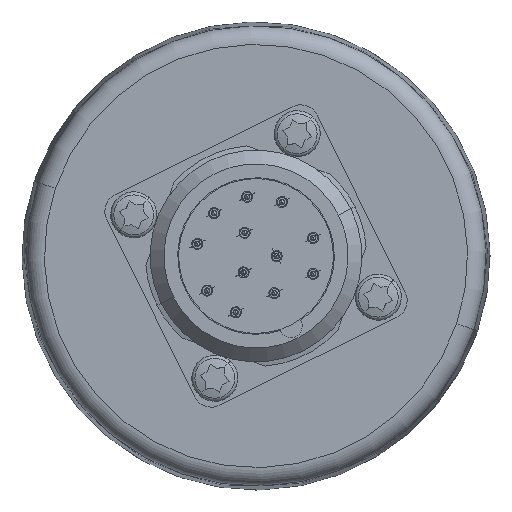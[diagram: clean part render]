
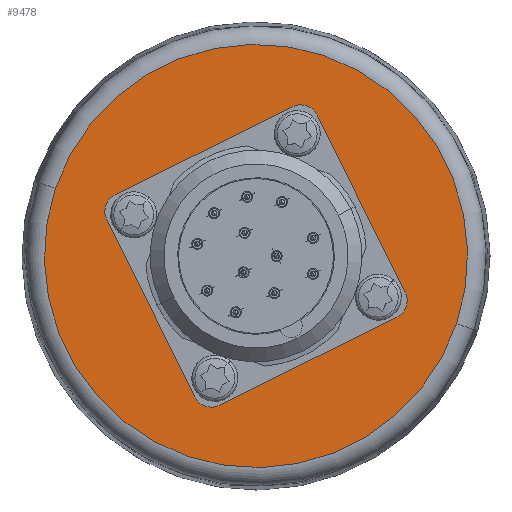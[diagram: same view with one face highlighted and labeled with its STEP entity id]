
A CAD part, left-side view. The second image highlights one B-rep face of the part: STEP entity #9478.
In plain terms, the highlighted planar face has unit normal (-1, 0, 0).
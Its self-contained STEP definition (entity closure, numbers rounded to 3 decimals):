
#177 = DIRECTION ( 'NONE',  ( 0., 0.948, 0.319 ) ) ;
#178 = DIRECTION ( 'NONE',  ( -1., 0., 0. ) ) ;
#179 = CARTESIAN_POINT ( 'NONE',  ( -21., 0., 0. ) ) ;
#180 = AXIS2_PLACEMENT_3D ( 'NONE', #179, #178, #177 ) ;
#181 = CIRCLE ( 'NONE', #180, 22.972 ) ;
#182 = CARTESIAN_POINT ( 'NONE',  ( -21., -21.77, -7.332 ) ) ;
#302 = CARTESIAN_POINT ( 'NONE',  ( -21., 21.77, 7.332 ) ) ;
#6747 = EDGE_CURVE ( 'NONE', #6748, #6754, #33563, .T. ) ;
#6748 = VERTEX_POINT ( 'NONE', #33558 ) ;
#6754 = VERTEX_POINT ( 'NONE', #33504 ) ;
#6761 = EDGE_CURVE ( 'NONE', #6762, #6764, #33707, .T. ) ;
#6762 = VERTEX_POINT ( 'NONE', #33702 ) ;
#6764 = VERTEX_POINT ( 'NONE', #33701 ) ;
#6772 = EDGE_CURVE ( 'NONE', #6781, #6775, #33688, .T. ) ;
#6775 = VERTEX_POINT ( 'NONE', #33611 ) ;
#6781 = VERTEX_POINT ( 'NONE', #33881 ) ;
#6790 = VERTEX_POINT ( 'NONE', #33833 ) ;
#6791 = EDGE_CURVE ( 'NONE', #6794, #6790, #33832, .T. ) ;
#6794 = VERTEX_POINT ( 'NONE', #33827 ) ;
#7105 = VERTEX_POINT ( 'NONE', #302 ) ;
#7112 = VERTEX_POINT ( 'NONE', #182 ) ;
#7114 = EDGE_CURVE ( 'NONE', #7112, #7105, #181, .T. ) ;
#9457 = ORIENTED_EDGE ( 'NONE', *, *, #15665, .F. ) ;
#9464 = EDGE_LOOP ( 'NONE', ( #9479, #9494 ) ) ;
#9469 = ORIENTED_EDGE ( 'NONE', *, *, #6791, .T. ) ;
#9470 = ORIENTED_EDGE ( 'NONE', *, *, #9471, .T. ) ;
#9471 = EDGE_CURVE ( 'NONE', #6790, #6794, #12883, .T. ) ;
#9472 = EDGE_LOOP ( 'NONE', ( #9573, #9617 ) ) ;
#9476 = ORIENTED_EDGE ( 'NONE', *, *, #6761, .T. ) ;
#9477 = ORIENTED_EDGE ( 'NONE', *, *, #9485, .T. ) ;
#9478 = ADVANCED_FACE ( 'NONE', ( #12867, #12866, #12865, #12864, #12863, #12862 ), #12990, .F. ) ;
#9479 = ORIENTED_EDGE ( 'NONE', *, *, #6747, .T. ) ;
#9482 = EDGE_LOOP ( 'NONE', ( #9476, #9477 ) ) ;
#9485 = EDGE_CURVE ( 'NONE', #6764, #6762, #12902, .T. ) ;
#9486 = ORIENTED_EDGE ( 'NONE', *, *, #6772, .T. ) ;
#9494 = ORIENTED_EDGE ( 'NONE', *, *, #9499, .T. ) ;
#9497 = EDGE_LOOP ( 'NONE', ( #9486, #9500 ) ) ;
#9499 = EDGE_CURVE ( 'NONE', #6754, #6748, #12945, .T. ) ;
#9500 = ORIENTED_EDGE ( 'NONE', *, *, #9836, .T. ) ;
#9541 = ORIENTED_EDGE ( 'NONE', *, *, #9586, .F. ) ;
#9573 = ORIENTED_EDGE ( 'NONE', *, *, #9615, .T. ) ;
#9586 = EDGE_CURVE ( 'NONE', #15707, #15470, #13075, .T. ) ;
#9615 = EDGE_CURVE ( 'NONE', #7105, #7112, #13281, .T. ) ;
#9617 = ORIENTED_EDGE ( 'NONE', *, *, #7114, .T. ) ;
#9618 = EDGE_LOOP ( 'NONE', ( #9541, #9457 ) ) ;
#9836 = EDGE_CURVE ( 'NONE', #6775, #6781, #13966, .T. ) ;
#9839 = EDGE_LOOP ( 'NONE', ( #9469, #9470 ) ) ;
#12862 = FACE_BOUND ( 'NONE', #9618, .T. ) ;
#12863 = FACE_OUTER_BOUND ( 'NONE', #9472, .T. ) ;
#12864 = FACE_BOUND ( 'NONE', #9839, .T. ) ;
#12865 = FACE_BOUND ( 'NONE', #9497, .T. ) ;
#12866 = FACE_BOUND ( 'NONE', #9482, .T. ) ;
#12867 = FACE_BOUND ( 'NONE', #9464, .T. ) ;
#12879 = DIRECTION ( 'NONE',  ( 0., 0.948, 0.319 ) ) ;
#12880 = DIRECTION ( 'NONE',  ( 1., 0., 0. ) ) ;
#12881 = CARTESIAN_POINT ( 'NONE',  ( -21., -13.268, -4.469 ) ) ;
#12882 = AXIS2_PLACEMENT_3D ( 'NONE', #12881, #12880, #12879 ) ;
#12883 = CIRCLE ( 'NONE', #12882, 1.389 ) ;
#12890 = CARTESIAN_POINT ( 'NONE',  ( -21., 13.268, 4.469 ) ) ;
#12899 = DIRECTION ( 'NONE',  ( 0., 0.948, 0.319 ) ) ;
#12900 = DIRECTION ( 'NONE',  ( 1., 0., 0. ) ) ;
#12901 = AXIS2_PLACEMENT_3D ( 'NONE', #12911, #12900, #12899 ) ;
#12902 = CIRCLE ( 'NONE', #12901, 1.389 ) ;
#12911 = CARTESIAN_POINT ( 'NONE',  ( -21., 4.469, -13.268 ) ) ;
#12942 = DIRECTION ( 'NONE',  ( 0., 0.948, 0.319 ) ) ;
#12943 = DIRECTION ( 'NONE',  ( 1., 0., 0. ) ) ;
#12944 = AXIS2_PLACEMENT_3D ( 'NONE', #12890, #12943, #12942 ) ;
#12945 = CIRCLE ( 'NONE', #12944, 1.389 ) ;
#12981 = DIRECTION ( 'NONE',  ( 0., 0.948, 0.319 ) ) ;
#12983 = DIRECTION ( 'NONE',  ( 1., 0., 0. ) ) ;
#12984 = CARTESIAN_POINT ( 'NONE',  ( -21., 0., 0. ) ) ;
#12985 = AXIS2_PLACEMENT_3D ( 'NONE', #12984, #12983, #12981 ) ;
#12990 = PLANE ( 'NONE',  #12985 ) ;
#13065 = DIRECTION ( 'NONE',  ( 0., -0.948, -0.319 ) ) ;
#13067 = DIRECTION ( 'NONE',  ( -1., 0., 0. ) ) ;
#13068 = CARTESIAN_POINT ( 'NONE',  ( -21., 0., 0. ) ) ;
#13069 = AXIS2_PLACEMENT_3D ( 'NONE', #13068, #13067, #13065 ) ;
#13075 = CIRCLE ( 'NONE', #13069, 11.5 ) ;
#13273 = DIRECTION ( 'NONE',  ( 0., 0.948, 0.319 ) ) ;
#13275 = DIRECTION ( 'NONE',  ( -1., 0., 0. ) ) ;
#13277 = CARTESIAN_POINT ( 'NONE',  ( -21., 0., 0. ) ) ;
#13279 = AXIS2_PLACEMENT_3D ( 'NONE', #13277, #13275, #13273 ) ;
#13281 = CIRCLE ( 'NONE', #13279, 22.972 ) ;
#13947 = DIRECTION ( 'NONE',  ( 0., 0.948, 0.319 ) ) ;
#13949 = DIRECTION ( 'NONE',  ( 1., 0., 0. ) ) ;
#13950 = CARTESIAN_POINT ( 'NONE',  ( -21., -4.469, 13.268 ) ) ;
#13951 = AXIS2_PLACEMENT_3D ( 'NONE', #13950, #13949, #13947 ) ;
#13966 = CIRCLE ( 'NONE', #13951, 1.389 ) ;
#15470 = VERTEX_POINT ( 'NONE', #22158 ) ;
#15665 = EDGE_CURVE ( 'NONE', #15470, #15707, #22818, .T. ) ;
#15707 = VERTEX_POINT ( 'NONE', #22924 ) ;
#22158 = CARTESIAN_POINT ( 'NONE',  ( -21., 10.898, 3.671 ) ) ;
#22818 = CIRCLE ( 'NONE', #22983, 11.5 ) ;
#22924 = CARTESIAN_POINT ( 'NONE',  ( -21., -10.898, -3.671 ) ) ;
#22980 = DIRECTION ( 'NONE',  ( 0., -0.948, -0.319 ) ) ;
#22981 = DIRECTION ( 'NONE',  ( -1., 0., 0. ) ) ;
#22982 = CARTESIAN_POINT ( 'NONE',  ( -21., 0., 0. ) ) ;
#22983 = AXIS2_PLACEMENT_3D ( 'NONE', #22982, #22981, #22980 ) ;
#33504 = CARTESIAN_POINT ( 'NONE',  ( -21., 14.584, 4.912 ) ) ;
#33558 = CARTESIAN_POINT ( 'NONE',  ( -21., 11.952, 4.026 ) ) ;
#33559 = DIRECTION ( 'NONE',  ( 0., 0.948, 0.319 ) ) ;
#33560 = DIRECTION ( 'NONE',  ( 1., 0., 0. ) ) ;
#33561 = CARTESIAN_POINT ( 'NONE',  ( -21., 13.268, 4.469 ) ) ;
#33562 = AXIS2_PLACEMENT_3D ( 'NONE', #33561, #33560, #33559 ) ;
#33563 = CIRCLE ( 'NONE', #33562, 1.389 ) ;
#33611 = CARTESIAN_POINT ( 'NONE',  ( -21., -3.153, 13.712 ) ) ;
#33684 = DIRECTION ( 'NONE',  ( 0., 0.948, 0.319 ) ) ;
#33685 = DIRECTION ( 'NONE',  ( 1., 0., 0. ) ) ;
#33686 = CARTESIAN_POINT ( 'NONE',  ( -21., -4.469, 13.268 ) ) ;
#33687 = AXIS2_PLACEMENT_3D ( 'NONE', #33686, #33685, #33684 ) ;
#33688 = CIRCLE ( 'NONE', #33687, 1.389 ) ;
#33701 = CARTESIAN_POINT ( 'NONE',  ( -21., 5.785, -12.825 ) ) ;
#33702 = CARTESIAN_POINT ( 'NONE',  ( -21., 3.153, -13.712 ) ) ;
#33703 = DIRECTION ( 'NONE',  ( 0., 0.948, 0.319 ) ) ;
#33704 = DIRECTION ( 'NONE',  ( 1., 0., 0. ) ) ;
#33705 = CARTESIAN_POINT ( 'NONE',  ( -21., 4.469, -13.268 ) ) ;
#33706 = AXIS2_PLACEMENT_3D ( 'NONE', #33705, #33704, #33703 ) ;
#33707 = CIRCLE ( 'NONE', #33706, 1.389 ) ;
#33827 = CARTESIAN_POINT ( 'NONE',  ( -21., -14.584, -4.912 ) ) ;
#33828 = DIRECTION ( 'NONE',  ( 0., 0.948, 0.319 ) ) ;
#33829 = DIRECTION ( 'NONE',  ( 1., 0., 0. ) ) ;
#33830 = CARTESIAN_POINT ( 'NONE',  ( -21., -13.268, -4.469 ) ) ;
#33831 = AXIS2_PLACEMENT_3D ( 'NONE', #33830, #33829, #33828 ) ;
#33832 = CIRCLE ( 'NONE', #33831, 1.389 ) ;
#33833 = CARTESIAN_POINT ( 'NONE',  ( -21., -11.952, -4.026 ) ) ;
#33881 = CARTESIAN_POINT ( 'NONE',  ( -21., -5.785, 12.825 ) ) ;
